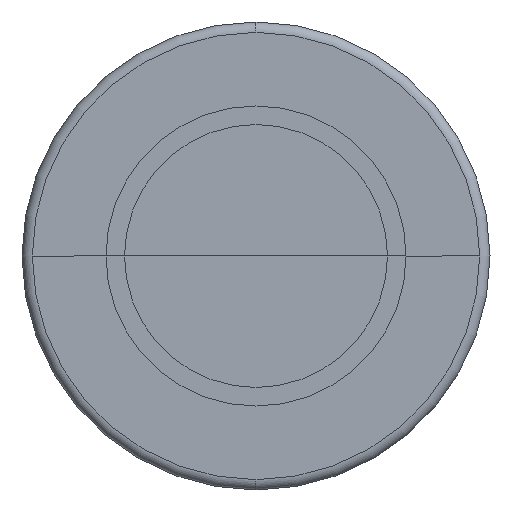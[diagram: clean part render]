
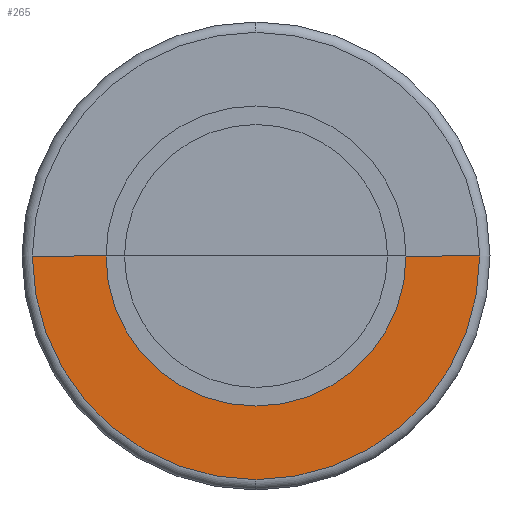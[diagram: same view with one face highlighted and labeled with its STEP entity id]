
A CAD part, left-side view. The second image highlights one B-rep face of the part: STEP entity #265.
In plain terms, the highlighted planar face has unit normal (-1, 0, 0).
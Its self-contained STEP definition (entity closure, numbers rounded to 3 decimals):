
#10 = CIRCLE ( 'NONE', #256, 21.6 ) ;
#21 = AXIS2_PLACEMENT_3D ( 'NONE', #1168, #1424, #1178 ) ;
#42 = EDGE_CURVE ( 'NONE', #1107, #1163, #132, .T. ) ;
#81 = EDGE_LOOP ( 'NONE', ( #917, #995, #549, #97, #897 ) ) ;
#85 = AXIS2_PLACEMENT_3D ( 'NONE', #1156, #108, #1167 ) ;
#97 = ORIENTED_EDGE ( 'NONE', *, *, #641, .T. ) ;
#108 = DIRECTION ( 'NONE',  ( -1., 0., 0. ) ) ;
#117 = DIRECTION ( 'NONE',  ( 0., 1., 0. ) ) ;
#132 = LINE ( 'NONE', #1047, #1395 ) ;
#140 = CARTESIAN_POINT ( 'NONE',  ( -39.2, 0., 0. ) ) ;
#256 = AXIS2_PLACEMENT_3D ( 'NONE', #140, #423, #629 ) ;
#265 = ADVANCED_FACE ( 'NONE', ( #1202 ), #1457, .T. ) ;
#297 = CIRCLE ( 'NONE', #21, 14.49 ) ;
#423 = DIRECTION ( 'NONE',  ( -1., 0., 0. ) ) ;
#439 = AXIS2_PLACEMENT_3D ( 'NONE', #1315, #867, #1218 ) ;
#517 = CARTESIAN_POINT ( 'NONE',  ( -39.2, -21.6, 0. ) ) ;
#546 = CARTESIAN_POINT ( 'NONE',  ( -39.2, 14.49, 0. ) ) ;
#549 = ORIENTED_EDGE ( 'NONE', *, *, #786, .T. ) ;
#594 = CARTESIAN_POINT ( 'NONE',  ( -39.2, 21.6, 0. ) ) ;
#629 = DIRECTION ( 'NONE',  ( 0., -1., 0. ) ) ;
#630 = LINE ( 'NONE', #517, #1136 ) ;
#641 = EDGE_CURVE ( 'NONE', #870, #847, #630, .T. ) ;
#705 = CIRCLE ( 'NONE', #85, 21.6 ) ;
#786 = EDGE_CURVE ( 'NONE', #1438, #870, #705, .T. ) ;
#847 = VERTEX_POINT ( 'NONE', #1044 ) ;
#867 = DIRECTION ( 'NONE',  ( -1., 0., 0. ) ) ;
#870 = VERTEX_POINT ( 'NONE', #1059 ) ;
#897 = ORIENTED_EDGE ( 'NONE', *, *, #925, .T. ) ;
#917 = ORIENTED_EDGE ( 'NONE', *, *, #42, .T. ) ;
#925 = EDGE_CURVE ( 'NONE', #847, #1107, #297, .T. ) ;
#995 = ORIENTED_EDGE ( 'NONE', *, *, #1531, .T. ) ;
#1044 = CARTESIAN_POINT ( 'NONE',  ( -39.2, -14.49, 0. ) ) ;
#1047 = CARTESIAN_POINT ( 'NONE',  ( -39.2, 14.49, 0. ) ) ;
#1059 = CARTESIAN_POINT ( 'NONE',  ( -39.2, -21.6, 0. ) ) ;
#1102 = DIRECTION ( 'NONE',  ( 0., 1., 0. ) ) ;
#1107 = VERTEX_POINT ( 'NONE', #546 ) ;
#1136 = VECTOR ( 'NONE', #1102, 1000. ) ;
#1156 = CARTESIAN_POINT ( 'NONE',  ( -39.2, 0., 0. ) ) ;
#1163 = VERTEX_POINT ( 'NONE', #594 ) ;
#1167 = DIRECTION ( 'NONE',  ( 0., -1., 0. ) ) ;
#1168 = CARTESIAN_POINT ( 'NONE',  ( -39.2, 0., 0. ) ) ;
#1178 = DIRECTION ( 'NONE',  ( 0., -1., 0. ) ) ;
#1202 = FACE_OUTER_BOUND ( 'NONE', #81, .T. ) ;
#1218 = DIRECTION ( 'NONE',  ( 0., 1., 0. ) ) ;
#1239 = CARTESIAN_POINT ( 'NONE',  ( -39.2, 0., -21.6 ) ) ;
#1315 = CARTESIAN_POINT ( 'NONE',  ( -39.2, 0., 0. ) ) ;
#1395 = VECTOR ( 'NONE', #117, 1000. ) ;
#1424 = DIRECTION ( 'NONE',  ( 1., 0., 0. ) ) ;
#1438 = VERTEX_POINT ( 'NONE', #1239 ) ;
#1457 = PLANE ( 'NONE',  #439 ) ;
#1531 = EDGE_CURVE ( 'NONE', #1163, #1438, #10, .T. ) ;
